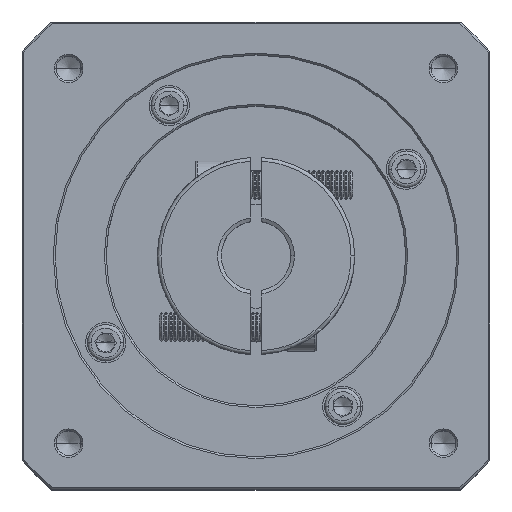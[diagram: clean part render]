
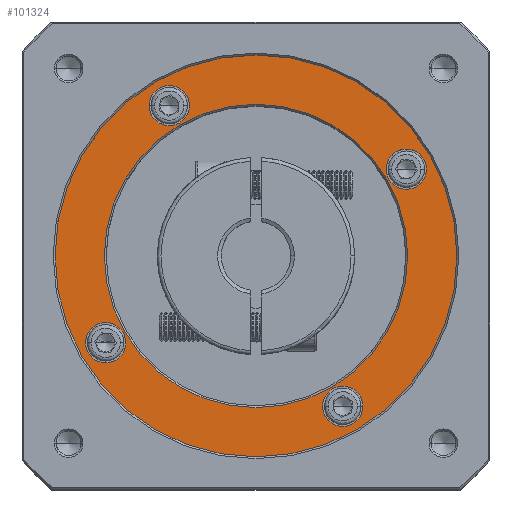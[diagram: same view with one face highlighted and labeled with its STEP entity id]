
A CAD part, top view. The second image highlights one B-rep face of the part: STEP entity #101324.
In plain terms, the highlighted planar face has unit normal (0, 0, 1).
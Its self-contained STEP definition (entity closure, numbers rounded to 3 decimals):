
#1585 = CARTESIAN_POINT ( 'NONE',  ( 103.813, 167.498, 75.911 ) ) ;
#2819 = CIRCLE ( 'NONE', #82867, 5.5 ) ;
#3385 = CIRCLE ( 'NONE', #12356, 41.5 ) ;
#4600 = DIRECTION ( 'NONE',  ( 1., 0., 0. ) ) ;
#4850 = DIRECTION ( 'NONE',  ( 1., 0., 0. ) ) ;
#5790 = CIRCLE ( 'NONE', #30645, 55. ) ;
#6995 = CARTESIAN_POINT ( 'NONE',  ( 62.677, 143.748, 75.911 ) ) ;
#9501 = FACE_BOUND ( 'NONE', #92154, .T. ) ;
#11045 = DIRECTION ( 'NONE',  ( 1., 0., 0. ) ) ;
#11199 = VERTEX_POINT ( 'NONE', #64970 ) ;
#11422 = EDGE_CURVE ( 'NONE', #77693, #102699, #31728, .T. ) ;
#12356 = AXIS2_PLACEMENT_3D ( 'NONE', #103783, #47583, #113208 ) ;
#15229 = DIRECTION ( 'NONE',  ( 0., 0., -1. ) ) ;
#16454 = DIRECTION ( 'NONE',  ( 1., 0., 0. ) ) ;
#18990 = CIRCLE ( 'NONE', #101604, 5.5 ) ;
#19390 = EDGE_LOOP ( 'NONE', ( #50441, #31627 ) ) ;
#19494 = VERTEX_POINT ( 'NONE', #117467 ) ;
#20632 = AXIS2_PLACEMENT_3D ( 'NONE', #53987, #119557, #63437 ) ;
#22648 = CARTESIAN_POINT ( 'NONE',  ( 62.677, 143.748, 75.911 ) ) ;
#23757 = CARTESIAN_POINT ( 'NONE',  ( 33.427, 184.884, 75.911 ) ) ;
#24474 = EDGE_CURVE ( 'NONE', #65601, #103748, #72778, .T. ) ;
#24743 = CARTESIAN_POINT ( 'NONE',  ( 38.927, 184.884, 75.911 ) ) ;
#25152 = DIRECTION ( 'NONE',  ( 0., 0., -1. ) ) ;
#26545 = VERTEX_POINT ( 'NONE', #57502 ) ;
#26784 = CIRCLE ( 'NONE', #109098, 5.5 ) ;
#28368 = CARTESIAN_POINT ( 'NONE',  ( 62.677, 143.748, 75.911 ) ) ;
#28669 = DIRECTION ( 'NONE',  ( 0., 0., -1. ) ) ;
#29170 = EDGE_LOOP ( 'NONE', ( #79294, #88922 ) ) ;
#30645 = AXIS2_PLACEMENT_3D ( 'NONE', #6995, #72760, #16454 ) ;
#31347 = EDGE_CURVE ( 'NONE', #58847, #26545, #2819, .T. ) ;
#31538 = DIRECTION ( 'NONE',  ( 0., 0., 1. ) ) ;
#31627 = ORIENTED_EDGE ( 'NONE', *, *, #91220, .T. ) ;
#31728 = CIRCLE ( 'NONE', #55354, 5.5 ) ;
#32139 = DIRECTION ( 'NONE',  ( 0., -1., 0. ) ) ;
#34226 = DIRECTION ( 'NONE',  ( 1., 0., 0. ) ) ;
#34552 = FACE_BOUND ( 'NONE', #97516, .T. ) ;
#36841 = CARTESIAN_POINT ( 'NONE',  ( 117.677, 143.748, 75.911 ) ) ;
#36972 = CIRCLE ( 'NONE', #56657, 5.5 ) ;
#37340 = CARTESIAN_POINT ( 'NONE',  ( 109.313, 167.498, 75.911 ) ) ;
#37900 = DIRECTION ( 'NONE',  ( 1., 0., 0. ) ) ;
#39105 = ORIENTED_EDGE ( 'NONE', *, *, #46827, .T. ) ;
#40309 = ORIENTED_EDGE ( 'NONE', *, *, #98755, .T. ) ;
#41287 = CARTESIAN_POINT ( 'NONE',  ( 62.677, 102.248, 75.911 ) ) ;
#42107 = CIRCLE ( 'NONE', #112328, 5.5 ) ;
#42200 = AXIS2_PLACEMENT_3D ( 'NONE', #1585, #67366, #11045 ) ;
#42500 = CARTESIAN_POINT ( 'NONE',  ( 27.041, 119.998, 75.911 ) ) ;
#42965 = EDGE_CURVE ( 'NONE', #109260, #56534, #101988, .T. ) ;
#44716 = CARTESIAN_POINT ( 'NONE',  ( 7.677, 143.748, 75.911 ) ) ;
#46827 = EDGE_CURVE ( 'NONE', #26545, #58847, #36972, .T. ) ;
#47583 = DIRECTION ( 'NONE',  ( 0., 0., -1. ) ) ;
#47912 = EDGE_CURVE ( 'NONE', #11199, #70169, #18990, .T. ) ;
#47933 = ORIENTED_EDGE ( 'NONE', *, *, #24474, .T. ) ;
#50014 = AXIS2_PLACEMENT_3D ( 'NONE', #28368, #94117, #37900 ) ;
#50441 = ORIENTED_EDGE ( 'NONE', *, *, #11422, .T. ) ;
#53987 = CARTESIAN_POINT ( 'NONE',  ( 103.813, 167.498, 75.911 ) ) ;
#55354 = AXIS2_PLACEMENT_3D ( 'NONE', #117322, #61206, #4850 ) ;
#56534 = VERTEX_POINT ( 'NONE', #36841 ) ;
#56657 = AXIS2_PLACEMENT_3D ( 'NONE', #81448, #25152, #90874 ) ;
#57502 = CARTESIAN_POINT ( 'NONE',  ( 16.041, 119.998, 75.911 ) ) ;
#58847 = VERTEX_POINT ( 'NONE', #42500 ) ;
#59527 = FACE_BOUND ( 'NONE', #29170, .T. ) ;
#60950 = DIRECTION ( 'NONE',  ( 0., 0., -1. ) ) ;
#61206 = DIRECTION ( 'NONE',  ( 0., 0., -1. ) ) ;
#62019 = CARTESIAN_POINT ( 'NONE',  ( 98.313, 167.498, 75.911 ) ) ;
#63437 = DIRECTION ( 'NONE',  ( 1., 0., 0. ) ) ;
#64040 = AXIS2_PLACEMENT_3D ( 'NONE', #87831, #31538, #97258 ) ;
#64970 = CARTESIAN_POINT ( 'NONE',  ( 91.927, 102.612, 75.911 ) ) ;
#65601 = VERTEX_POINT ( 'NONE', #62019 ) ;
#66669 = ORIENTED_EDGE ( 'NONE', *, *, #119384, .T. ) ;
#67366 = DIRECTION ( 'NONE',  ( 0., 0., -1. ) ) ;
#69128 = ORIENTED_EDGE ( 'NONE', *, *, #102562, .T. ) ;
#70169 = VERTEX_POINT ( 'NONE', #109442 ) ;
#70557 = EDGE_LOOP ( 'NONE', ( #106628, #39105 ) ) ;
#70569 = AXIS2_PLACEMENT_3D ( 'NONE', #22648, #88425, #32139 ) ;
#71509 = CARTESIAN_POINT ( 'NONE',  ( 21.541, 119.998, 75.911 ) ) ;
#72760 = DIRECTION ( 'NONE',  ( 0., 0., 1. ) ) ;
#72778 = CIRCLE ( 'NONE', #42200, 5.5 ) ;
#76759 = EDGE_LOOP ( 'NONE', ( #40309, #116281 ) ) ;
#77693 = VERTEX_POINT ( 'NONE', #121884 ) ;
#79294 = ORIENTED_EDGE ( 'NONE', *, *, #110441, .T. ) ;
#80033 = VERTEX_POINT ( 'NONE', #41287 ) ;
#80975 = DIRECTION ( 'NONE',  ( 1., 0., 0. ) ) ;
#81223 = CIRCLE ( 'NONE', #70569, 41.5 ) ;
#81448 = CARTESIAN_POINT ( 'NONE',  ( 21.541, 119.998, 75.911 ) ) ;
#81568 = FACE_BOUND ( 'NONE', #70557, .T. ) ;
#82075 = EDGE_CURVE ( 'NONE', #19494, #80033, #81223, .T. ) ;
#82867 = AXIS2_PLACEMENT_3D ( 'NONE', #71509, #15229, #80975 ) ;
#84991 = CARTESIAN_POINT ( 'NONE',  ( 86.427, 102.612, 75.911 ) ) ;
#87831 = CARTESIAN_POINT ( 'NONE',  ( 62.677, 143.748, 75.911 ) ) ;
#88034 = ORIENTED_EDGE ( 'NONE', *, *, #47912, .T. ) ;
#88425 = DIRECTION ( 'NONE',  ( 0., 0., -1. ) ) ;
#88922 = ORIENTED_EDGE ( 'NONE', *, *, #82075, .T. ) ;
#90467 = DIRECTION ( 'NONE',  ( 0., 0., -1. ) ) ;
#90874 = DIRECTION ( 'NONE',  ( 1., 0., 0. ) ) ;
#91220 = EDGE_CURVE ( 'NONE', #102699, #77693, #42107, .T. ) ;
#92154 = EDGE_LOOP ( 'NONE', ( #88034, #69128 ) ) ;
#94117 = DIRECTION ( 'NONE',  ( 0., 0., 1. ) ) ;
#94413 = DIRECTION ( 'NONE',  ( 1., 0., 0. ) ) ;
#97258 = DIRECTION ( 'NONE',  ( 1., 0., 0. ) ) ;
#97516 = EDGE_LOOP ( 'NONE', ( #66669, #47933 ) ) ;
#98755 = EDGE_CURVE ( 'NONE', #56534, #109260, #5790, .T. ) ;
#101324 = ADVANCED_FACE ( 'NONE', ( #118217, #59527, #34552, #9501, #106504, #81568 ), #112549, .T. ) ;
#101604 = AXIS2_PLACEMENT_3D ( 'NONE', #84991, #28669, #94413 ) ;
#101988 = CIRCLE ( 'NONE', #64040, 55. ) ;
#102562 = EDGE_CURVE ( 'NONE', #70169, #11199, #26784, .T. ) ;
#102699 = VERTEX_POINT ( 'NONE', #23757 ) ;
#103199 = CIRCLE ( 'NONE', #20632, 5.5 ) ;
#103748 = VERTEX_POINT ( 'NONE', #37340 ) ;
#103783 = CARTESIAN_POINT ( 'NONE',  ( 62.677, 143.748, 75.911 ) ) ;
#106504 = FACE_BOUND ( 'NONE', #19390, .T. ) ;
#106628 = ORIENTED_EDGE ( 'NONE', *, *, #31347, .T. ) ;
#109098 = AXIS2_PLACEMENT_3D ( 'NONE', #117081, #60950, #4600 ) ;
#109260 = VERTEX_POINT ( 'NONE', #44716 ) ;
#109442 = CARTESIAN_POINT ( 'NONE',  ( 80.927, 102.612, 75.911 ) ) ;
#110441 = EDGE_CURVE ( 'NONE', #80033, #19494, #3385, .T. ) ;
#112328 = AXIS2_PLACEMENT_3D ( 'NONE', #24743, #90467, #34226 ) ;
#112549 = PLANE ( 'NONE',  #50014 ) ;
#113208 = DIRECTION ( 'NONE',  ( 0., -1., 0. ) ) ;
#116281 = ORIENTED_EDGE ( 'NONE', *, *, #42965, .T. ) ;
#117081 = CARTESIAN_POINT ( 'NONE',  ( 86.427, 102.612, 75.911 ) ) ;
#117322 = CARTESIAN_POINT ( 'NONE',  ( 38.927, 184.884, 75.911 ) ) ;
#117467 = CARTESIAN_POINT ( 'NONE',  ( 62.677, 185.248, 75.911 ) ) ;
#118217 = FACE_OUTER_BOUND ( 'NONE', #76759, .T. ) ;
#119384 = EDGE_CURVE ( 'NONE', #103748, #65601, #103199, .T. ) ;
#119557 = DIRECTION ( 'NONE',  ( 0., 0., -1. ) ) ;
#121884 = CARTESIAN_POINT ( 'NONE',  ( 44.427, 184.884, 75.911 ) ) ;
